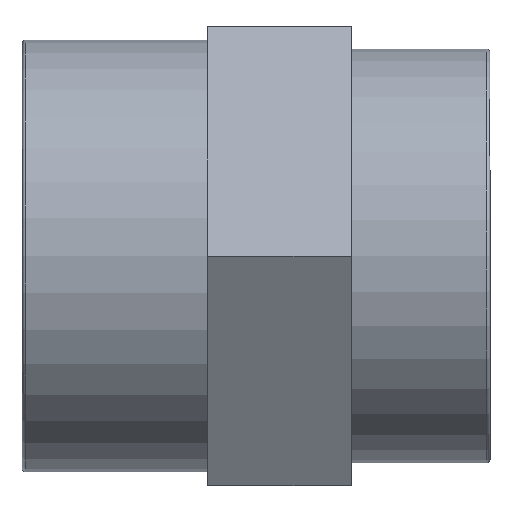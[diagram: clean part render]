
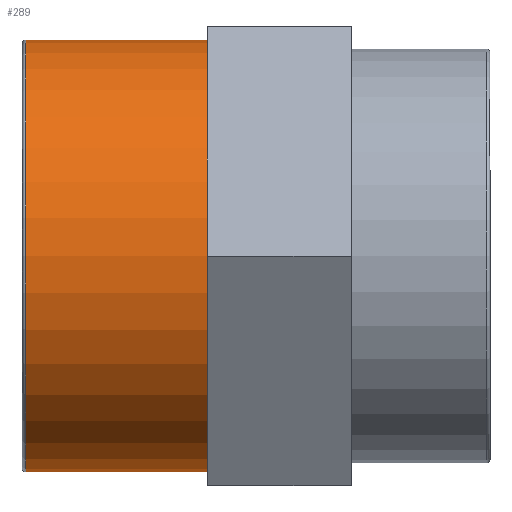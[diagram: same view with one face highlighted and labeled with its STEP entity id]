
A CAD part, top view. The second image highlights one B-rep face of the part: STEP entity #289.
In plain terms, the highlighted cylindrical face has radius 24 mm (diameter 48 mm), a full revolution.
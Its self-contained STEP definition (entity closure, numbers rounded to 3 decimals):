
#54=CYLINDRICAL_SURFACE('',#323,24.);
#77=FACE_BOUND('',#123,.T.);
#92=FACE_OUTER_BOUND('',#122,.T.);
#122=EDGE_LOOP('',(#230));
#123=EDGE_LOOP('',(#231));
#150=CIRCLE('',#322,24.);
#151=CIRCLE('',#324,24.);
#164=VERTEX_POINT('',#458);
#165=VERTEX_POINT('',#461);
#190=EDGE_CURVE('',#164,#164,#150,.T.);
#191=EDGE_CURVE('',#165,#165,#151,.T.);
#230=ORIENTED_EDGE('',*,*,#191,.T.);
#231=ORIENTED_EDGE('',*,*,#190,.F.);
#289=ADVANCED_FACE('',(#92,#77),#54,.T.);
#322=AXIS2_PLACEMENT_3D('',#459,#378,#379);
#323=AXIS2_PLACEMENT_3D('',#460,#380,#381);
#324=AXIS2_PLACEMENT_3D('',#462,#382,#383);
#378=DIRECTION('center_axis',(-1.,0.,0.));
#379=DIRECTION('ref_axis',(0.,1.,0.));
#380=DIRECTION('center_axis',(-1.,0.,0.));
#381=DIRECTION('ref_axis',(0.,-1.,0.));
#382=DIRECTION('center_axis',(-1.,0.,0.));
#383=DIRECTION('ref_axis',(0.,0.,1.));
#458=CARTESIAN_POINT('',(-25.6,-24.,0.));
#459=CARTESIAN_POINT('Origin',(-25.6,0.,0.));
#460=CARTESIAN_POINT('Origin',(-15.7,0.,0.));
#461=CARTESIAN_POINT('',(-5.4,-24.,0.));
#462=CARTESIAN_POINT('Origin',(-5.4,0.,0.));
